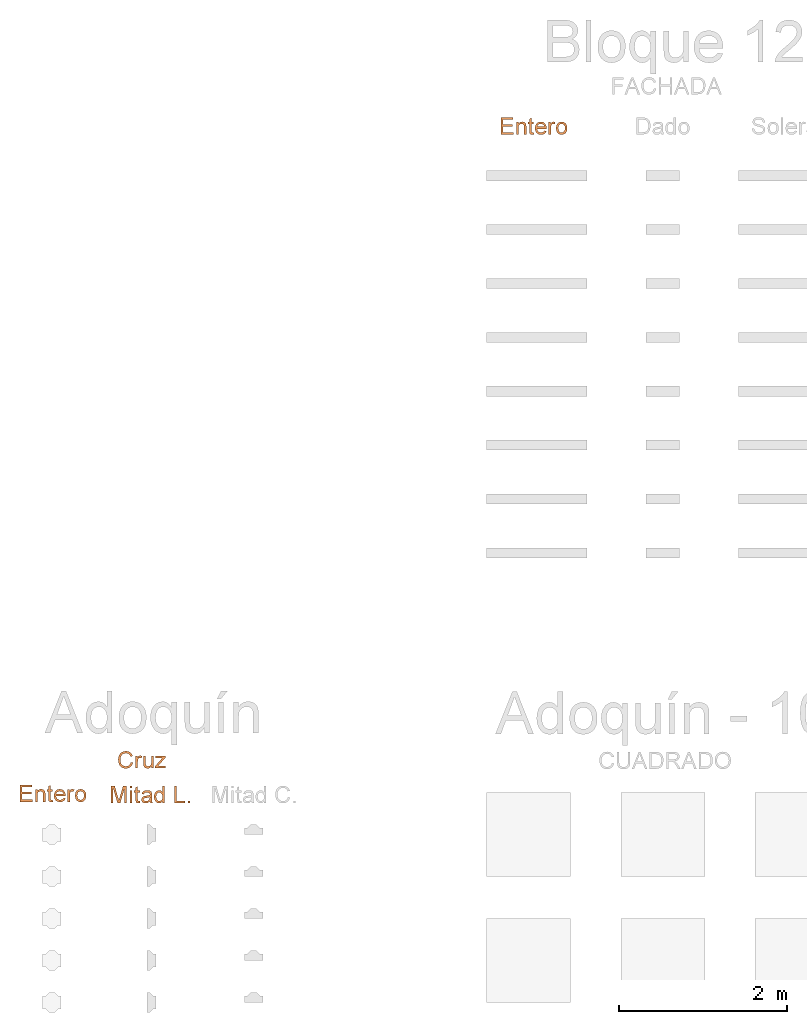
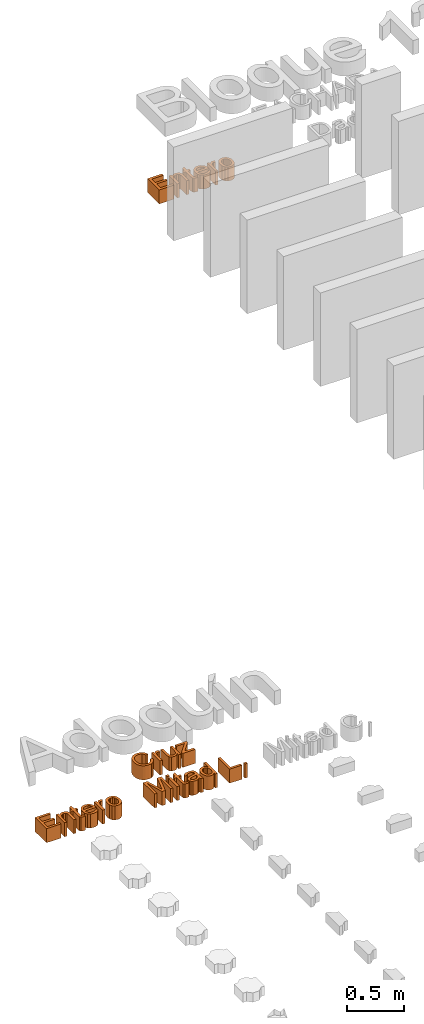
# One storey, part 16 of 19: 4 proxies.
"""IFC2X3 building model written with IfcOpenShell, lengths in metres."""

from ifc_helpers import new_model, entity, si_unit, converted_unit, derived_unit, direction, frame, frame_2d, origin, place, context, subcontext, project, spatial, polyline, rectangle, outline, extrude, type_object, element, save


model = new_model("IFC2X3")

# Units and contexts
model_context = context("Model", 3, precision=1e-05, world=origin(), true_north=direction((6.12303176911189e-17, 1.0)))
body_context = subcontext(model_context, "Body", "Model", "MODEL_VIEW")
ifc_project = project(units=[si_unit("LENGTHUNIT", "METRE"), si_unit("AREAUNIT", "SQUARE_METRE"), si_unit("VOLUMEUNIT", "CUBIC_METRE"), converted_unit("PLANEANGLEUNIT", "DEGREE", entity("IfcRatioMeasure", 0.0174532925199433), si_unit("PLANEANGLEUNIT", "RADIAN"), dimensions=[0, 0, 0, 0, 0, 0, 0]), si_unit("MASSUNIT", "GRAM", prefix="KILO"), derived_unit("MASSDENSITYUNIT", [(si_unit("MASSUNIT", "GRAM", prefix="KILO"), 1), (si_unit("LENGTHUNIT", "METRE"), -3)]), derived_unit("MOMENTOFINERTIAUNIT", [(si_unit("LENGTHUNIT", "METRE"), 4)]), si_unit("TIMEUNIT", "SECOND"), si_unit("FREQUENCYUNIT", "HERTZ"), si_unit("THERMODYNAMICTEMPERATUREUNIT", "DEGREE_CELSIUS"), derived_unit("THERMALTRANSMITTANCEUNIT", [(si_unit("MASSUNIT", "GRAM", prefix="KILO"), 1), (si_unit("THERMODYNAMICTEMPERATUREUNIT", "KELVIN"), -1), (si_unit("TIMEUNIT", "SECOND"), -3)]), derived_unit("VOLUMETRICFLOWRATEUNIT", [(si_unit("LENGTHUNIT", "METRE"), 3), (si_unit("TIMEUNIT", "SECOND"), -1)]), si_unit("ELECTRICCURRENTUNIT", "AMPERE"), si_unit("ELECTRICVOLTAGEUNIT", "VOLT"), si_unit("POWERUNIT", "WATT"), si_unit("FORCEUNIT", "NEWTON", prefix="KILO"), si_unit("ILLUMINANCEUNIT", "LUX"), si_unit("LUMINOUSFLUXUNIT", "LUMEN"), si_unit("LUMINOUSINTENSITYUNIT", "CANDELA"), derived_unit("USERDEFINED", [(si_unit("MASSUNIT", "GRAM", prefix="KILO"), -1), (si_unit("LENGTHUNIT", "METRE"), -2), (si_unit("TIMEUNIT", "SECOND"), 3), (si_unit("LUMINOUSFLUXUNIT", "LUMEN"), 1)]), derived_unit("LINEARVELOCITYUNIT", [(si_unit("LENGTHUNIT", "METRE"), 1), (si_unit("TIMEUNIT", "SECOND"), -1)]), si_unit("PRESSUREUNIT", "PASCAL"), derived_unit("USERDEFINED", [(si_unit("LENGTHUNIT", "METRE"), -2), (si_unit("MASSUNIT", "GRAM", prefix="KILO"), 1), (si_unit("TIMEUNIT", "SECOND"), -2)]), derived_unit("LINEARFORCEUNIT", [(si_unit("MASSUNIT", "GRAM", prefix="KILO"), 1), (si_unit("LENGTHUNIT", "METRE"), 1), (si_unit("TIMEUNIT", "SECOND"), -2), (si_unit("LENGTHUNIT", "METRE"), -1)]), derived_unit("PLANARFORCEUNIT", [(si_unit("MASSUNIT", "GRAM", prefix="KILO"), 1), (si_unit("LENGTHUNIT", "METRE"), 1), (si_unit("TIMEUNIT", "SECOND"), -2), (si_unit("LENGTHUNIT", "METRE"), -2)])], contexts=[model_context])

# Site, building, storey
site_placement = place(None, origin())
site = spatial("IfcSite", under=ifc_project, at=site_placement, Name="Default", CompositionType="ELEMENT")
building_placement = place(site_placement, origin())
building = spatial("IfcBuilding", under=site, at=building_placement, CompositionType="ELEMENT")
storey_placement = place(building_placement, origin())
storey = spatial("IfcBuildingStorey", under=building, at=storey_placement, Name="Nivel 1", CompositionType="ELEMENT", Elevation=0.0)

# Proxies
building_element_proxy_type_1 = type_object("IfcBuildingElementProxyType", Name="Texto de modelo:Subtítulo", PredefinedType="NOTDEFINED")
proxy_1_placement = place(storey_placement, origin())
element("IfcBuildingElementProxy", 1, at=proxy_1_placement, inside=storey, type_object=building_element_proxy_type_1, Name="Texto de modelo:Subtítulo", ObjectType="Texto de modelo:Subtítulo", context=body_context, shape_type="SweptSolid", body=[
    extrude(outline(polyline([(-0.0800511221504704, -0.101502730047), (0.0674940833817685, -0.101502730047), (0.0674940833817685, -0.0763886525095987), (-0.0549370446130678, -0.0763886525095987), (-0.0549370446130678, -0.0104641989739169), (0.0580763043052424, -0.0104641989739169), (0.0580763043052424, 0.0146498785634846), (-0.0549370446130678, 0.0146498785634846), (-0.0549370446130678, 0.074295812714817), (0.0643548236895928, 0.074295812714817), (0.0643548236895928, 0.0994098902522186), (-0.0800511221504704, 0.0994098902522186), (-0.0800511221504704, -0.101502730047)])), frame((-5.19566679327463, 10.1547712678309, 0.0)), (0.0, 0.0, 1.0), 0.15),
    extrude(outline(polyline([(-0.0610913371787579, -0.102201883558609), (-0.0359772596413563, -0.102201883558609), (-0.0359772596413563, -0.0239165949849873), (-0.0331139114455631, -0.00077681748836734), (-0.0245238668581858, 0.0135092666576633), (-0.0119852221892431, 0.0209036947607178), (0.00272392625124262, 0.0233685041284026), (0.0199653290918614, 0.0189784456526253), (0.030192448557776, 0.00723074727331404), (0.0330864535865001, -0.0149893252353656), (0.0330864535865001, -0.102201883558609), (0.0582005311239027, -0.102201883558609), (0.0582005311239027, -0.0116048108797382), (0.0568761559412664, 0.0126754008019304), (0.0493468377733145, 0.0311430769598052), (0.0331600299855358, 0.0437001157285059), (0.00944390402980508, 0.0484825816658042), (-0.00454174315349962, 0.0469987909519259), (-0.0167738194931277, 0.0425474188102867), (-0.0272523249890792, 0.0351284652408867), (-0.0359772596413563, 0.02474193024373), (-0.0359772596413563, 0.0453433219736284), (-0.0610913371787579, 0.0453433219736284), (-0.0610913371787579, -0.102201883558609)])), frame((-5.03254951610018, 10.1554704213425, 0.0)), (0.0, 0.0, 1.0), 0.15),
    extrude(outline(polyline([(-0.0351329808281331, -0.0583737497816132), (-0.0402910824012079, -0.0796644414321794), (-0.0218126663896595, -0.0838186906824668), (-0.000471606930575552, -0.0816406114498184), (0.0110045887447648, -0.0717345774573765), (0.0167042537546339, -0.043646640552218), (0.0243888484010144, 0.0379564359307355), (0.0431414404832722, 0.0361904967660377), (0.0454960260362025, 0.0611939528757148), (0.0267434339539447, 0.0629598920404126), (0.0301051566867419, 0.0986581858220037), (0.00648593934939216, 0.115712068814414), (0.00173997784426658, 0.065314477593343), (-0.0232634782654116, 0.0676690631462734), (-0.0256180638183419, 0.0426656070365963), (-0.000614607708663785, 0.0403110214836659), (-0.00823022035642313, -0.040559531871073), (-0.0107628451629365, -0.0533277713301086), (-0.0154658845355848, -0.0574914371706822), (-0.0241462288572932, -0.0583737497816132), (-0.0351329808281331, -0.0583737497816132)])), frame((-4.91595507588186, 10.1356238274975, 0.0), z_axis=(0.0, 0.0, -1.0), x_axis=(-0.995595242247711, 0.0937556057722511, 0.0)), (0.0, 0.0, -1.0), 0.15),
    extrude(outline(polyline([(-0.00993794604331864, -0.0410894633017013), (-0.0216263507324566, -0.0629882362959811), (-0.00136076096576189, -0.0664886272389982), (0.0181427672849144, -0.0629678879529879), (0.0362596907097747, -0.052373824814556), (0.0523654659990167, -0.0346542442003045), (0.0653616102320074, -0.00774419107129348), (0.0663157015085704, 0.0193800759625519), (0.055194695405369, 0.0449978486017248), (0.0319655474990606, 0.067388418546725), (0.00225549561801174, 0.0824990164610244), (-0.026308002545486, 0.0848576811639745), (-0.0517924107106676, 0.0755140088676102), (-0.0722651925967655, 0.0555175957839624), (-0.083879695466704, 0.0303111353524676), (-0.0839813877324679, 0.00365713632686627), (-0.0721795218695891, -0.0222407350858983), (-0.0480833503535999, -0.0451788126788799), (-0.0424775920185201, -0.0489757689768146), (0.0228336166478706, 0.0430743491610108), (0.035649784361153, 0.0286508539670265), (0.041077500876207, 0.0124178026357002), (0.039574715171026, -0.00438600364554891), (0.0315993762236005, -0.0205217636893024), (0.0130702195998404, -0.0375669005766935), (0.00222602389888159, -0.0410894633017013), (-0.00993794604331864, -0.0410894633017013)]), holes=[polyline([(0.00235136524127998, 0.0576068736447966), (-0.0485124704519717, -0.0140810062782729), (-0.0573680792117, -0.0036328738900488), (-0.0612558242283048, 0.00728999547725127), (-0.0599840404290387, 0.024340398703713), (-0.0517261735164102, 0.0410650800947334), (-0.0400149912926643, 0.05351272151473), (-0.0261693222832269, 0.0608523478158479), (-0.0115826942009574, 0.062433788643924), (0.00235136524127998, 0.0576068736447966)])]), frame((-4.79729634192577, 10.1128899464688, 0.0), z_axis=(0.0, 0.0, -1.0), x_axis=(-0.578660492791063, -0.815568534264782, 0.0)), (0.0, 0.0, -1.0), 0.15),
    extrude(outline(polyline([(-0.0370877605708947, -0.111431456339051), (-0.0119736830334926, -0.111431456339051), (-0.0119736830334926, -0.0338819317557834), (-0.00790245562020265, -0.00454947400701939), (0.00114744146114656, 0.0091847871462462), (0.0153476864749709, 0.0141389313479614), (0.0330060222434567, 0.00898858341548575), (0.0413937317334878, 0.031502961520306), (0.0286895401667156, 0.0373154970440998), (0.0161815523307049, 0.039253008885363), (0.000485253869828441, 0.0343969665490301), (-0.0151129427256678, 0.0142860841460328), (-0.0151129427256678, 0.0361137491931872), (-0.0370877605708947, 0.0361137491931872), (-0.0370877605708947, -0.111431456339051)])), frame((-4.67042415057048, 10.1646999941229, 0.0)), (0.0, 0.0, 1.0), 0.15),
    extrude(outline(polyline([(-0.0116534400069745, -0.0669843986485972), (0.0215735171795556, -0.0669843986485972), (0.0474010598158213, -0.0567621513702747), (0.0650090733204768, -0.0379496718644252), (0.0735774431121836, -0.0121789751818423), (0.0737787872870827, 0.00568792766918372), (0.0693254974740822, 0.0227506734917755), (0.0604863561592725, 0.0378207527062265), (0.0475301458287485, 0.0497096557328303), (0.0292360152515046, 0.0584068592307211), (0.00438311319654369, 0.0639018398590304), (-0.0272289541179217, 0.0636287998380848), (-0.0525847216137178, 0.0531926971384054), (-0.0702507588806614, 0.0343634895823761), (-0.0787936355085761, 0.00891113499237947), (-0.0780541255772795, -0.0155295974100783), (-0.0686800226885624, -0.0371544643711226), (-0.0589084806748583, -0.0481042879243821), (-0.0461468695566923, -0.0567258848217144), (-0.0116534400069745, -0.0669843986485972)]), holes=[polyline([(-0.00825874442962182, -0.0421007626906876), (-0.0303624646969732, -0.036107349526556), (-0.0451706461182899, -0.0252557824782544), (-0.0529373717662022, -0.0109345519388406), (-0.0539167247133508, 0.00546785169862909), (-0.0485294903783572, 0.0208219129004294), (-0.03712920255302, 0.0324839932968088), (-0.0201048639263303, 0.0389852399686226), (0.00215452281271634, 0.0388567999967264), (0.0247623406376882, 0.0327936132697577), (0.0398195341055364, 0.021907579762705), (0.0476807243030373, 0.00759803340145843), (0.0487005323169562, -0.0087356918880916), (0.0432906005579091, -0.0242537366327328), (0.0318894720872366, -0.0359218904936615), (0.0146540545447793, -0.0423382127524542), (-0.00825874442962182, -0.0421007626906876)])]), frame((-4.55166306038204, 10.1246816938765, 0.0), z_axis=(0.0, 0.0, 1.0), x_axis=(0.137105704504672, -0.990556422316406, 0.0)), (0.0, 0.0, 1.0), 0.15),
])
building_element_proxy_type_2 = type_object("IfcBuildingElementProxyType", Name="Texto de modelo:Subtítulo", PredefinedType="NOTDEFINED")
proxy_2_placement = place(storey_placement, origin())
element("IfcBuildingElementProxy", 2, at=proxy_2_placement, inside=storey, type_object=building_element_proxy_type_2, Name="Texto de modelo:Subtítulo", ObjectType="Texto de modelo:Subtítulo", context=body_context, shape_type="SweptSolid", body=[
    extrude(outline(polyline([(0.00355232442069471, -0.0754517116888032), (0.000735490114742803, -0.101233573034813), (0.03220736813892, -0.100733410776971), (0.0586340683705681, -0.091275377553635), (0.0793092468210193, -0.0735495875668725), (0.0935265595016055, -0.048246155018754), (0.100733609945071, -0.0198295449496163), (0.0996500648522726, 0.00530853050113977), (0.0908072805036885, 0.0276031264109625), (0.0747366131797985, 0.0474892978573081), (0.0532622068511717, 0.0640355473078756), (0.0282082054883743, 0.0763103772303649), (-0.000248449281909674, 0.0838799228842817), (-0.0270668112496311, 0.0844731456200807), (-0.0513308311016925, 0.0782421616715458), (-0.072124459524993, 0.0653390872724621), (-0.088745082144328, 0.0469994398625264), (-0.100490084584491, 0.0244587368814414), (-0.106560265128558, -0.00268319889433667), (-0.103625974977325, -0.028127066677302), (-0.0921127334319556, -0.0509518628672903), (-0.0724460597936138, -0.0702365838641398), (-0.0579739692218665, -0.0488570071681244), (-0.0720305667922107, -0.0342408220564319), (-0.0795803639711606, -0.0186741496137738), (-0.0809958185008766, -0.00185900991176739), (-0.0766493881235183, 0.0165025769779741), (-0.0665154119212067, 0.0357323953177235), (-0.0527173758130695, 0.0494622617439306), (-0.03619631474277, 0.0575953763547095), (-0.0178932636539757, 0.0600349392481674), (0.000999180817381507, 0.0580310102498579), (0.0192884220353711, 0.0528336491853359), (0.0403234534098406, 0.0428633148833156), (0.0570828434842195, 0.0304574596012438), (0.0687737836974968, 0.0156861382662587), (0.0746034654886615, -0.00138059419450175), (0.0751312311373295, -0.0194006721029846), (0.070916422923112, -0.0370320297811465), (0.0605954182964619, -0.0555423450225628), (0.0456816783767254, -0.0685820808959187), (0.0265442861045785, -0.0754517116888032), (0.00355232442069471, -0.0754517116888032)])), frame((-9.75407817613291, 2.60463208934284, 0.0), z_axis=(0.0, 0.0, -1.0), x_axis=(-0.353343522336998, -0.935493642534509, 0.0)), (0.0, 0.0, -1.0), 0.15),
    extrude(outline(polyline([(-0.0370877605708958, -0.11143145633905), (-0.0119736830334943, -0.11143145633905), (-0.0119736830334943, -0.0338819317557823), (-0.00790245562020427, -0.00454947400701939), (0.00114744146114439, 0.00918478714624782), (0.0153476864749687, 0.0141389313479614), (0.0330060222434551, 0.00898858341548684), (0.0413937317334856, 0.031502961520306), (0.0286895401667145, 0.0373154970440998), (0.0161815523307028, 0.0392530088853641), (0.000485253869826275, 0.0343969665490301), (-0.0151129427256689, 0.0142860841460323), (-0.0151129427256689, 0.0361137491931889), (-0.0370877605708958, 0.0361137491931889), (-0.0370877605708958, -0.11143145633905)])), frame((-9.59115433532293, 2.61466183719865, 0.0)), (0.0, 0.0, 1.0), 0.15),
    extrude(outline(polyline([(0.0370191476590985, -0.0459420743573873), (0.0621332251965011, -0.0459420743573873), (0.0621332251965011, 0.101603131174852), (0.0370191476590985, 0.101603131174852), (0.0370191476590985, 0.0248384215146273), (0.0329479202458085, -0.00314513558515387), (0.0274480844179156, -0.0117719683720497), (0.019091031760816, -0.0183754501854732), (-0.00187824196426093, -0.0239672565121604), (-0.0205911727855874, -0.0184980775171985), (-0.0268635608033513, -0.0120049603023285), (-0.0305239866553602, -0.00346396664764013), (-0.0320445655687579, 0.0221406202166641), (-0.0320445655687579, 0.101603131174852), (-0.0571586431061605, 0.101603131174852), (-0.0571586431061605, 0.0103193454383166), (-0.0556871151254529, -0.0130288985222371), (-0.0482068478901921, -0.031521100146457), (-0.0319219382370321, -0.0440781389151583), (-0.00830391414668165, -0.0490813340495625), (0.00527093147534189, -0.0473001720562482), (0.0173497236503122, -0.0419566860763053), (0.0279324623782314, -0.0330508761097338), (0.0370191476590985, -0.0205827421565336), (0.0370191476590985, -0.0459420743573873)])), frame((-9.47690566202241, 2.54917245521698, 0.0)), (0.0, 0.0, 1.0), 0.15),
    extrude(outline(polyline([(-0.0614193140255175, -0.0712408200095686), (0.0641510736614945, -0.0712408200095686), (0.0641510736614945, -0.0461267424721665), (0.0014149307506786, -0.0461267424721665), (-0.0276232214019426, -0.0461267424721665), (-0.0158509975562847, -0.0326867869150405), (0.0610118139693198, 0.0549672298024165), (0.0610118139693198, 0.0763043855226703), (-0.0551407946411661, 0.0763043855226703), (-0.0551407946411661, 0.0511903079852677), (-0.000399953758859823, 0.0511903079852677), (0.0252536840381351, 0.0511903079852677), (-0.0614193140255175, -0.0475982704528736), (-0.0614193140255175, -0.0712408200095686)])), frame((-9.33451756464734, 2.57447120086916, 0.0)), (0.0, 0.0, 1.0), 0.15),
])
building_element_proxy_type_3 = type_object("IfcBuildingElementProxyType", Name="Texto de modelo:Subtítulo", PredefinedType="NOTDEFINED")
proxy_3_placement = place(storey_placement, origin())
element("IfcBuildingElementProxy", 3, at=proxy_3_placement, inside=storey, type_object=building_element_proxy_type_3, Name="Texto de modelo:Subtítulo", ObjectType="Texto de modelo:Subtítulo", context=body_context, shape_type="SweptSolid", body=[
    extrude(outline(polyline([(-0.0800511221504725, -0.101502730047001), (0.0674940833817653, -0.101502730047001), (0.0674940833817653, -0.0763886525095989), (-0.054937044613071, -0.0763886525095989), (-0.054937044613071, -0.0104641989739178), (0.0580763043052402, -0.0104641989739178), (0.0580763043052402, 0.0146498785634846), (-0.054937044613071, 0.0146498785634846), (-0.054937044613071, 0.0742958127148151), (0.0643548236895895, 0.0742958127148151), (0.0643548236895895, 0.0994098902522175), (-0.0800511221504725, 0.0994098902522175), (-0.0800511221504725, -0.101502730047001)])), frame((-10.9251726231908, 2.20529430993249, 0.0)), (0.0, 0.0, 1.0), 0.15),
    extrude(outline(polyline([(-0.0610913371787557, -0.102201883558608), (-0.0359772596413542, -0.102201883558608), (-0.0359772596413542, -0.0239165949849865), (-0.033113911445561, -0.000776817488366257), (-0.0245238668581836, 0.013509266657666), (-0.0119852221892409, 0.0209036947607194), (0.00272392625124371, 0.023368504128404), (0.0199653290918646, 0.0189784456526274), (0.0301924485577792, 0.00723074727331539), (0.0330864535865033, -0.0149893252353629), (0.0330864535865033, -0.102201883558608), (0.0582005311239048, -0.102201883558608), (0.0582005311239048, -0.0116048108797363), (0.0568761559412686, 0.0126754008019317), (0.0493468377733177, 0.0311430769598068), (0.0331600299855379, 0.0437001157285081), (0.00944390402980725, 0.0484825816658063), (-0.00454174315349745, 0.0469987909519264), (-0.0167738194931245, 0.0425474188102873), (-0.0272523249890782, 0.0351284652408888), (-0.0359772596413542, 0.0247419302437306), (-0.0359772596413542, 0.0453433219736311), (-0.0610913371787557, 0.0453433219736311), (-0.0610913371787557, -0.102201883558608)])), frame((-10.7620553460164, 2.2059934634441, 0.0)), (0.0, 0.0, 1.0), 0.15),
    extrude(outline(polyline([(-0.0351329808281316, -0.0583737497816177), (-0.0402910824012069, -0.0796644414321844), (-0.0218126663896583, -0.0838186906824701), (-0.000471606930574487, -0.0816406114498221), (0.0110045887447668, -0.0717345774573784), (0.0167042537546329, -0.0436466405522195), (0.0243888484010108, 0.0379564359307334), (0.0431414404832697, 0.0361904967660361), (0.0454960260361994, 0.061193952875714), (0.0267434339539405, 0.0629598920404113), (0.0301051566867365, 0.0986581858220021), (0.00648593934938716, 0.11571206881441), (0.0017399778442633, 0.065314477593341), (-0.0232634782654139, 0.0676690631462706), (-0.0256180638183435, 0.0426656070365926), (-0.000614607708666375, 0.040311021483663), (-0.0082302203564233, -0.0405595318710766), (-0.0107628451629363, -0.0533277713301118), (-0.0154658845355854, -0.0574914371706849), (-0.0241462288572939, -0.0583737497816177), (-0.0351329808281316, -0.0583737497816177)])), frame((-10.645460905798, 2.18614686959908, 0.0), z_axis=(0.0, 0.0, -1.0), x_axis=(-0.995595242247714, 0.0937556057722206, 0.0)), (0.0, 0.0, -1.0), 0.15),
    extrude(outline(polyline([(-0.00993794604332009, -0.0410894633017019), (-0.0216263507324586, -0.0629882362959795), (-0.00136076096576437, -0.0664886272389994), (0.0181427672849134, -0.0629678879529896), (0.036259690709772, -0.0523738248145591), (0.0523654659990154, -0.0346542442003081), (0.0653616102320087, -0.00774419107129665), (0.0663157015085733, 0.0193800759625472), (0.0551946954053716, 0.0449978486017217), (0.0319655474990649, 0.0673884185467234), (0.00225549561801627, 0.0824990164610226), (-0.026308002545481, 0.0848576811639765), (-0.0517924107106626, 0.0755140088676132), (-0.0722651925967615, 0.0555175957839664), (-0.0838796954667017, 0.0303111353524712), (-0.0839813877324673, 0.00365713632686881), (-0.0721795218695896, -0.0222407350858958), (-0.0480833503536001, -0.0451788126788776), (-0.0424775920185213, -0.048975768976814), (0.022833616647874, 0.0430743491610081), (0.0356497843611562, 0.0286508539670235), (0.0410775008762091, 0.0124178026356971), (0.0395747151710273, -0.00438600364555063), (0.0315993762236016, -0.0205217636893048), (0.013070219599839, -0.0375669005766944), (0.00222602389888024, -0.0410894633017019), (-0.00993794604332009, -0.0410894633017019)]), holes=[polyline([(0.00235136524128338, 0.0576068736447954), (-0.0485124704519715, -0.0140810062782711), (-0.0573680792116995, -0.00363287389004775), (-0.0612558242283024, 0.00728999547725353), (-0.0599840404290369, 0.0243403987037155), (-0.0517261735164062, 0.041065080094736), (-0.0400149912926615, 0.0535127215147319), (-0.0261693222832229, 0.0608523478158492), (-0.0115826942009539, 0.0624337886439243), (0.00235136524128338, 0.0576068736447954)])]), frame((-10.5268021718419, 2.16341298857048, 0.0), z_axis=(0.0, 0.0, -1.0), x_axis=(-0.578660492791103, -0.815568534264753, 0.0)), (0.0, 0.0, -1.0), 0.15),
    extrude(outline(polyline([(-0.0370877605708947, -0.111431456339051), (-0.0119736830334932, -0.111431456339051), (-0.0119736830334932, -0.0338819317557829), (-0.00790245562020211, -0.00454947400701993), (0.00114744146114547, 0.00918478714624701), (0.0153476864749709, 0.0141389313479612), (0.0330060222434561, 0.00898858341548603), (0.0413937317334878, 0.0315029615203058), (0.0286895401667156, 0.037315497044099), (0.0161815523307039, 0.0392530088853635), (0.000485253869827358, 0.0343969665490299), (-0.0151129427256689, 0.0142860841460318), (-0.0151129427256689, 0.0361137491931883), (-0.0370877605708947, 0.0361137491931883), (-0.0370877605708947, -0.111431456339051)])), frame((-10.3999299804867, 2.21522303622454, 0.0)), (0.0, 0.0, 1.0), 0.15),
    extrude(outline(polyline([(-0.0116534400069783, -0.0669843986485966), (0.0215735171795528, -0.0669843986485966), (0.0474010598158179, -0.0567621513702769), (0.065009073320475, -0.0379496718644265), (0.0735774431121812, -0.0121789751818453), (0.0737787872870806, 0.00568792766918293), (0.0693254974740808, 0.0227506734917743), (0.0604863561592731, 0.0378207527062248), (0.0475301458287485, 0.0497096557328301), (0.0292360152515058, 0.0584068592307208), (0.00438311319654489, 0.0639018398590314), (-0.0272289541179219, 0.0636287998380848), (-0.0525847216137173, 0.0531926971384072), (-0.0702507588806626, 0.0343634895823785), (-0.0787936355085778, 0.00891113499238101), (-0.078054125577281, -0.0155295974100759), (-0.0686800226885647, -0.0371544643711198), (-0.0589084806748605, -0.0481042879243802), (-0.0461468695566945, -0.0567258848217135), (-0.0116534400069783, -0.0669843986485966)]), holes=[polyline([(-0.00825874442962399, -0.0421007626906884), (-0.0303624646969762, -0.0361073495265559), (-0.0451706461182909, -0.025255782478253), (-0.0529373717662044, -0.0109345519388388), (-0.0539167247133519, 0.00546785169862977), (-0.0485294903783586, 0.0208219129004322), (-0.0371292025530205, 0.0324839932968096), (-0.0201048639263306, 0.0389852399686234), (0.00215452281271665, 0.0388567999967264), (0.0247623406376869, 0.0327936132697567), (0.0398195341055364, 0.021907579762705), (0.0476807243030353, 0.00759803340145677), (0.0487005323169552, -0.00873569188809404), (0.0432906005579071, -0.0242537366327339), (0.0318894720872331, -0.0359218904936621), (0.0146540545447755, -0.0423382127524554), (-0.00825874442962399, -0.0421007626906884)])]), frame((-10.2811688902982, 2.17520473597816, 0.0), z_axis=(0.0, 0.0, 1.0), x_axis=(0.137105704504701, -0.990556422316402, 0.0)), (0.0, 0.0, 1.0), 0.15),
])
building_element_proxy_type_4 = type_object("IfcBuildingElementProxyType", Name="Texto de modelo:Subtítulo", PredefinedType="NOTDEFINED")
proxy_4_placement = place(storey_placement, origin())
element("IfcBuildingElementProxy", 4, at=proxy_4_placement, inside=storey, type_object=building_element_proxy_type_4, Name="Texto de modelo:Subtítulo", ObjectType="Texto de modelo:Subtítulo", context=body_context, shape_type="SweptSolid", body=[
    extrude(outline(polyline([(-0.0926441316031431, -0.087068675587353), (-0.0675300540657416, -0.087068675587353), (-0.0675300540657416, 0.0887298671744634), (-0.0170075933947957, -0.087068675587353), (0.0169847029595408, -0.087068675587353), (0.0674581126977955, 0.0887298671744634), (0.0674581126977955, -0.087068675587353), (0.0925721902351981, -0.087068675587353), (0.0925721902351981, 0.113843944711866), (0.0493583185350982, 0.113843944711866), (0.008940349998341, -0.0253135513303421), (-3.59706839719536e-05, -0.0573438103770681), (-0.00837462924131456, -0.0277660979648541), (-0.0495774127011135, 0.113843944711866), (-0.0926441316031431, 0.113843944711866), (-0.0926441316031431, -0.087068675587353)])), frame((-9.82725807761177, 2.1764304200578, 0.0)), (0.0, 0.0, 1.0), 0.15),
    extrude(rectangle(XDim=0.0251140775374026, YDim=0.147545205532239, at=frame_2d((5.41233724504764e-16, 0.0), x_axis=(1.0, 0.0))), frame((-9.68131847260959, 2.16313434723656, 0.0)), (0.0, 0.0, 1.0), 0.15),
    extrude(outline(polyline([(-0.0351329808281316, -0.0583737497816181), (-0.0402910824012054, -0.0796644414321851), (-0.0218126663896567, -0.0838186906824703), (-0.000471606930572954, -0.0816406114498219), (0.0110045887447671, -0.0717345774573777), (0.0167042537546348, -0.0436466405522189), (0.0243888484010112, 0.0379564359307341), (0.0431414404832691, 0.0361904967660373), (0.0454960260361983, 0.0611939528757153), (0.0267434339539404, 0.0629598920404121), (0.0301051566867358, 0.0986581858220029), (0.00648593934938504, 0.115712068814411), (0.00173997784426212, 0.0653144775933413), (-0.0232634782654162, 0.0676690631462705), (-0.0256180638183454, 0.0426656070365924), (-0.000614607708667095, 0.0403110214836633), (-0.00823022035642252, -0.0405595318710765), (-0.0107628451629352, -0.0533277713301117), (-0.0154658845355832, -0.057491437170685), (-0.0241462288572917, -0.0583737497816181), (-0.0351329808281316, -0.0583737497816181)])), frame((-9.6072282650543, 2.17171703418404, 0.0), z_axis=(0.0, 0.0, -1.0), x_axis=(-0.995595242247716, 0.0937556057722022, 0.0)), (0.0, 0.0, -1.0), 0.15),
    extrude(outline(polyline([(0.0711345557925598, 0.0146039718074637), (0.090988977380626, 0.0146039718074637), (0.0989307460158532, 0.0384292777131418), (0.0773157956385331, 0.0403604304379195), (0.0355206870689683, 0.0529478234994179), (0.00587865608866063, 0.0628285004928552), (-0.0153562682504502, 0.0686142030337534), (-0.0339620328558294, 0.0666985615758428), (-0.050031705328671, 0.0539327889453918), (-0.0638910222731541, 0.0264700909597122), (-0.0695759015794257, -0.00656115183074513), (-0.0677610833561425, -0.020467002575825), (-0.0628595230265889, -0.031860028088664), (-0.0430283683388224, -0.0499228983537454), (-0.0321084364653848, -0.0270903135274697), (-0.0404360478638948, -0.019053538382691), (-0.044540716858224, -0.0101752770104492), (-0.0446745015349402, 0.000882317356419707), (-0.0410894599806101, 0.0154570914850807), (-0.0342567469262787, 0.030216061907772), (-0.0254230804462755, 0.0394995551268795), (-0.0168259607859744, 0.0421015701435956), (-0.00564621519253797, 0.0401975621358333), (-0.000387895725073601, 0.0382896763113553), (-0.00597195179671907, -0.00576232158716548), (-0.00926034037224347, -0.0275711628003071), (-0.00700345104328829, -0.0468594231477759), (0.00268333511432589, -0.0634021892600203), (0.0200094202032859, -0.0742445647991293), (0.0370349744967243, -0.0765654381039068), (0.0529320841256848, -0.071801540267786), (0.066308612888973, -0.0599412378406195), (0.0757724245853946, -0.0409728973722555), (0.0795804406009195, -0.0138824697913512), (0.0711345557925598, 0.0146039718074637)]), holes=[polyline([(0.0234839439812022, 0.0304875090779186), (0.0301848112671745, 0.0280987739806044), (0.0473557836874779, 0.018187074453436), (0.0559722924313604, -0.00195430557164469), (0.0564783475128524, -0.0146871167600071), (0.0536378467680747, -0.0279589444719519), (0.048323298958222, -0.0395982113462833), (0.0415313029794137, -0.0470610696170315), (0.0339521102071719, -0.050448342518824), (0.0262759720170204, -0.0498608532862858), (0.0181946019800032, -0.0435477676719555), (0.0150070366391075, -0.0321702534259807), (0.0179774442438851, -0.0103846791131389), (0.0234839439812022, 0.0304875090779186)])]), frame((-9.49478030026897, 2.17106328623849, 0.0), z_axis=(0.0, 0.0, 1.0), x_axis=(0.316227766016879, -0.9486832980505, 0.0)), (0.0, 0.0, 1.0), 0.15),
    extrude(outline(polyline([(0.0429290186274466, -0.0757009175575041), (0.0680430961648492, -0.0757009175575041), (0.0680430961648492, 0.125211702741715), (0.0429290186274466, 0.125211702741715), (0.0429290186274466, 0.0503599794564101), (0.0263988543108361, 0.0681409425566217), (0.0155340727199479, 0.0732728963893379), (0.00324681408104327, 0.07498354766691), (-0.0136205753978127, 0.0725923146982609), (-0.0288079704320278, 0.0654186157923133), (-0.0413650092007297, 0.0537567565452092), (-0.0503413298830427, 0.0379010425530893), (-0.0557308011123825, 0.0189305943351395), (-0.0575272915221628, -0.00207546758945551), (-0.0555775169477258, -0.0233451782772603), (-0.0497281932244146, -0.042027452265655), (-0.0403349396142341, -0.0574968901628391), (-0.0277533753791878, -0.069128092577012), (-0.0128909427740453, -0.0764121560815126), (0.0033449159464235, -0.0788401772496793), (0.0156229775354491, -0.0771632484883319), (0.0263130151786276, -0.0721324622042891), (0.0354150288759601, -0.0637478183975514), (0.0429290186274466, -0.0520093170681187), (0.0429290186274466, -0.0757009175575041)]), holes=[polyline([(-0.0324132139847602, -0.00197736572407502), (-0.0297644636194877, 0.0213034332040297), (-0.0218182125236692, 0.0373860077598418), (-0.00991109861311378, 0.0467486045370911), (0.00462024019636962, 0.0498694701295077), (0.0195255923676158, 0.0466198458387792), (0.0318680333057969, 0.0368709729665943), (0.0401637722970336, 0.0201813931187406), (0.0429290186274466, -0.0038903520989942), (0.0402128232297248, -0.0259080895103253), (0.0320642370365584, -0.041438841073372), (0.0200283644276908, -0.0506542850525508), (0.00565030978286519, -0.0537260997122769), (-0.00873387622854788, -0.0505071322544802), (-0.0210824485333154, -0.0408502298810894), (-0.029580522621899, -0.0246940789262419), (-0.0324132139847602, -0.00197736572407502)])]), frame((-9.35067558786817, 2.16506266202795, 0.0)), (0.0, 0.0, 1.0), 0.15),
    extrude(outline(polyline([(-0.0502281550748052, -0.075342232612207), (0.0753422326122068, -0.075342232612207), (0.0753422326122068, -0.0502281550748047), (-0.0251140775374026, -0.0502281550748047), (-0.0251140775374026, 0.125570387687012), (-0.0502281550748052, 0.125570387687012), (-0.0502281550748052, -0.075342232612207)])), frame((-9.11311246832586, 2.16470397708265, 0.0)), (0.0, 0.0, 1.0), 0.15),
    extrude(rectangle(XDim=0.0251140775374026, YDim=0.0251140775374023, at=frame_2d((5.41233724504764e-16, -1.35308431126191e-16), x_axis=(1.0, 0.0))), frame((-8.9938206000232, 2.10191878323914, 0.0)), (0.0, 0.0, 1.0), 0.15),
    extrude(rectangle(XDim=0.0251140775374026, YDim=0.0251140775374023, at=frame_2d((5.41233724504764e-16, -1.35308431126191e-16), x_axis=(1.0, 0.0))), frame((-9.68131847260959, 2.27771732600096, 0.0)), (0.0, 0.0, 1.0), 0.15),
])

save(model, "model.ifc")
